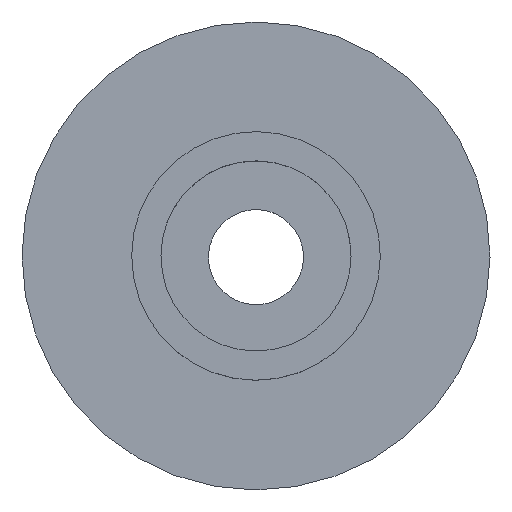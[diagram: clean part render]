
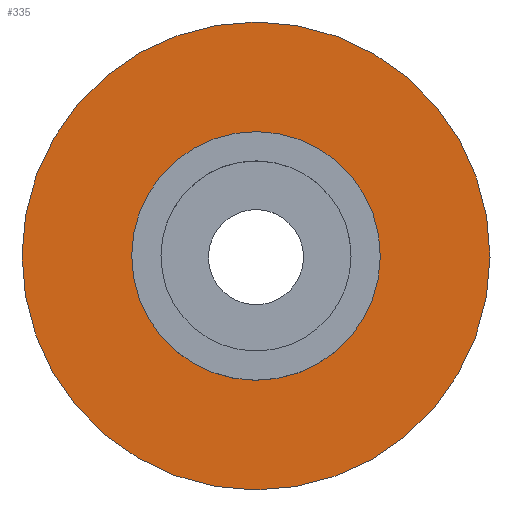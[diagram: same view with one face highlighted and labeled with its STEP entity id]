
A CAD part, top view. The second image highlights one B-rep face of the part: STEP entity #335.
In plain terms, the highlighted planar face has unit normal (0, 0, 1).
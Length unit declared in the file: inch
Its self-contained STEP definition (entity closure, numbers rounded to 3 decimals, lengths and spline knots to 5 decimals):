
#22=FACE_BOUND('',#123,.T.);
#61=CIRCLE('',#376,0.53125);
#62=CIRCLE('',#378,1.);
#87=FACE_OUTER_BOUND('',#122,.T.);
#122=EDGE_LOOP('',(#253));
#123=EDGE_LOOP('',(#254));
#172=VERTEX_POINT('',#1869);
#173=VERTEX_POINT('',#1872);
#203=EDGE_CURVE('',#172,#172,#61,.T.);
#204=EDGE_CURVE('',#173,#173,#62,.T.);
#253=ORIENTED_EDGE('',*,*,#204,.F.);
#254=ORIENTED_EDGE('',*,*,#203,.T.);
#285=PLANE('',#377);
#335=ADVANCED_FACE('',(#87,#22),#285,.T.);
#376=AXIS2_PLACEMENT_3D('',#1870,#452,#453);
#377=AXIS2_PLACEMENT_3D('',#1871,#454,#455);
#378=AXIS2_PLACEMENT_3D('',#1873,#456,#457);
#452=DIRECTION('center_axis',(0.,0.,
-1.));
#453=DIRECTION('ref_axis',(0.941,0.338,0.));
#454=DIRECTION('center_axis',(0.,0.,
1.));
#455=DIRECTION('ref_axis',(0.338,-0.941,0.));
#456=DIRECTION('center_axis',(0.,0.,
-1.));
#457=DIRECTION('ref_axis',(0.941,0.338,0.));
#1869=CARTESIAN_POINT('',(0.50006,0.17936,2.9343));
#1870=CARTESIAN_POINT('Origin',(0.,0.,
2.9343));
#1871=CARTESIAN_POINT('Origin',(0.72067,0.25848,2.9343));
#1872=CARTESIAN_POINT('',(0.94129,0.33761,2.9343));
#1873=CARTESIAN_POINT('Origin',(0.,0.,
2.9343));
